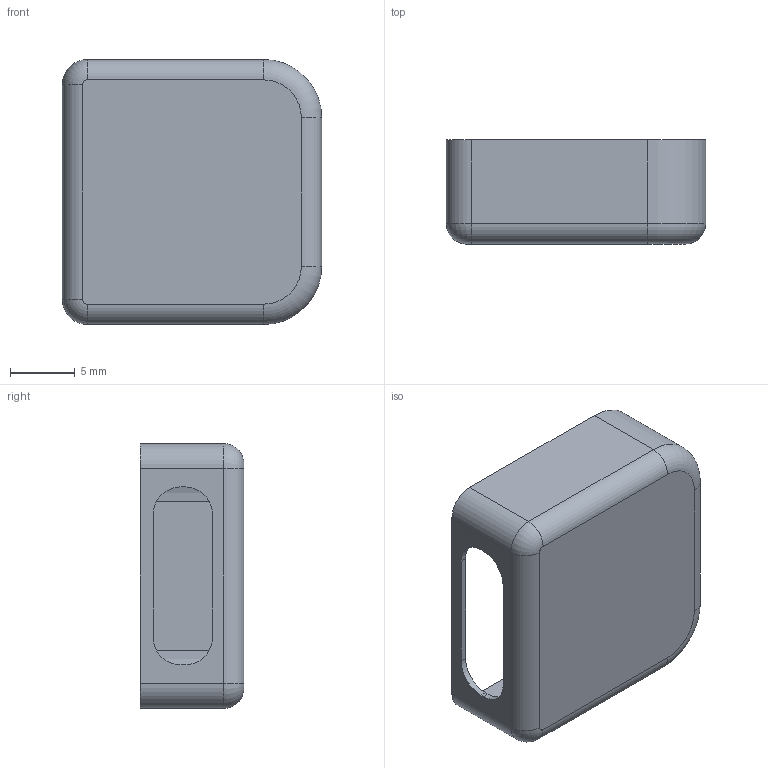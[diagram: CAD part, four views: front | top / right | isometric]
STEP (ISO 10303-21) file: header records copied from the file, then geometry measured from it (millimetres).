
FILE_DESCRIPTION(/* description */ ('STEP AP242 Edition 2','CAx-IF Rec.Pracs.---Representation and Presentation of Product Manufacturing Information (PMI)---4.0---2014-10-13','CAx-IF Rec.Pracs.---3D Tessellated Geometry---0.4---2014-09-14','2;1','CAx-IF Rec.Pracs.---User Defined Attributes---1.5---2016-08-15'),/* implementation_level */ '2;1');
FILE_NAME(/* name */ 'Assembly 1 - Part 8',/* time_stamp */ '2026-10-02T23:42:51Z',/* author */ (''),/* organization */ (''),/* preprocessor_version */ 'ST-DEVELOPER v20',/* originating_system */ 'ONSHAPE BY PTC INC, 1.221',/* authorisation */ ' ');
FILE_SCHEMA (('AP242_MANAGED_MODEL_BASED_3D_ENGINEERING_MIM_LF { 1 0 10303 442 3 1 4 }'));
Length unit declared in the file: metre
Products named in the file (1): Part 8
Bounding box: 20.02 x 8.01 x 20.45 mm (x, y, z)
Volume: 636.7 mm3; surface area: 1745.7 mm2
Topology: 1 solids, 1 shells, 35 faces, 88 edges, 56 vertices
Faces by surface type: cylinder 16, plane 15, torus 4
Entity records: 1080 total; most frequent: DIRECTION 196, CARTESIAN_POINT 180, ORIENTED_EDGE 176, EDGE_CURVE 88, AXIS2_PLACEMENT_3D 72, VERTEX_POINT 56, LINE 52, VECTOR 52
